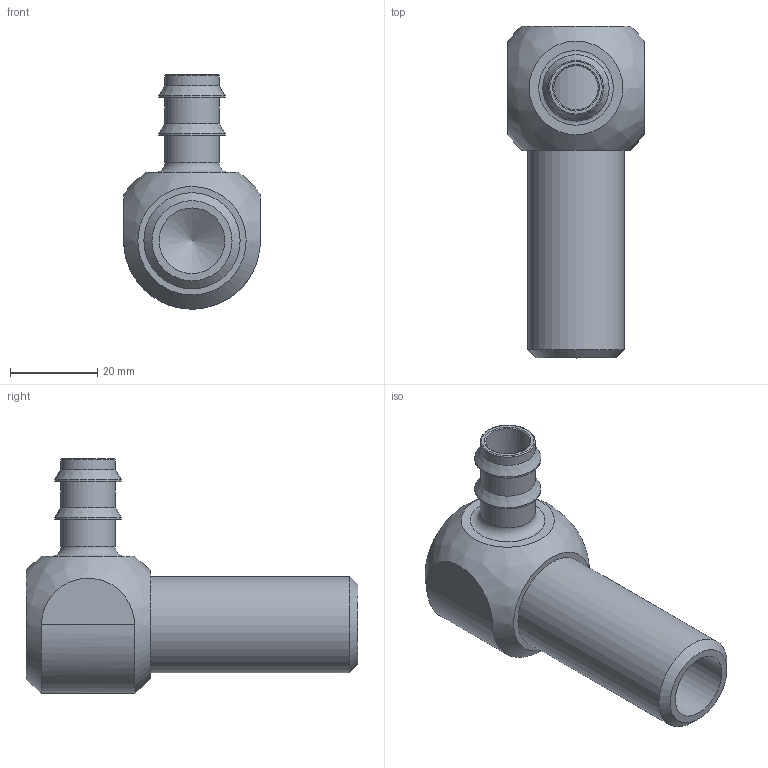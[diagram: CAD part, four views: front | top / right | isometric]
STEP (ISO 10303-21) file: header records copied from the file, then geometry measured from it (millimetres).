
FILE_DESCRIPTION(/* description */ (''),/* implementation_level */ '2;1');
FILE_NAME(/* name */ 'C:/Users/drich/Desktop/WJ50-M50 v1.step',/* time_stamp */ '2019-12-29T15:39:34-06:00',/* author */ (''),/* organization */ (''),/* preprocessor_version */ 'ST-DEVELOPER v18',/* originating_system */ 'Autodesk Translation Framework v8.12.0.6',/* authorisation */ '');
FILE_SCHEMA (('AUTOMOTIVE_DESIGN { 1 0 10303 214 3 1 1 }'));
Length unit declared in the file: inch
Products named in the file (2): WJ50-M50; WJ50-M SHAFT
Assembly tree (1 placements, depth 2):
  WJ50-M50
    WJ50-M SHAFT
Bounding box: 31.39 x 76.2 x 53.79 mm (x, y, z)
Volume: 34385 mm3; surface area: 14870.2 mm2
Topology: 2 solids, 2 shells, 37 faces, 96 edges, 70 vertices
Faces by surface type: plane 18, cylinder 11, cone 4, torus 3, bspline 1
Full cylindrical faces by diameter (mm): 10.183 x1, 12.571 x3, 15.062 x1, 15.24 x2, 21.336 x1, 21.463 x1, 22.095 x1
Entity records: 1592 total; most frequent: CARTESIAN_POINT 571, DIRECTION 214, ORIENTED_EDGE 190, EDGE_CURVE 95, AXIS2_PLACEMENT_3D 90, VERTEX_POINT 70, CIRCLE 51, EDGE_LOOP 49
